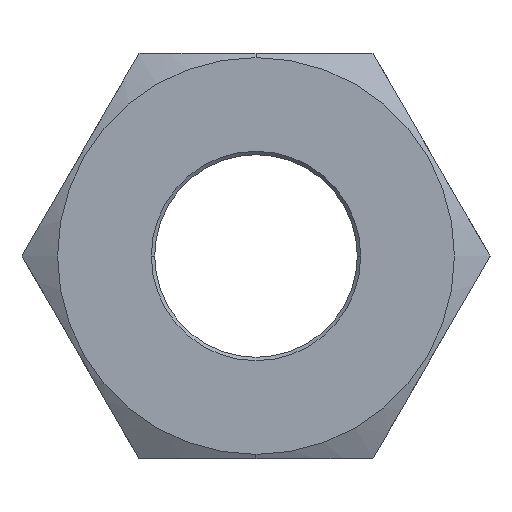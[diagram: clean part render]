
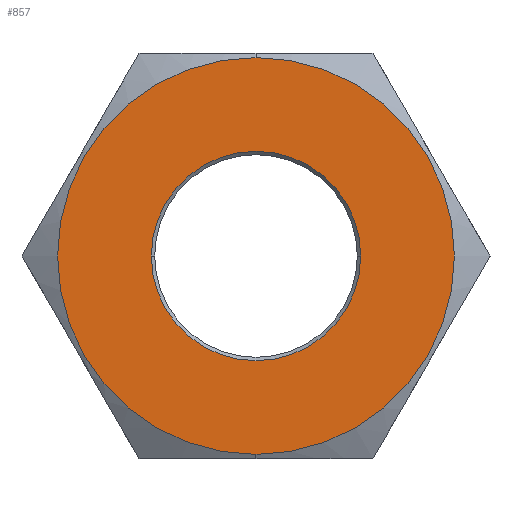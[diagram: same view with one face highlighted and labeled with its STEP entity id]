
A CAD part, left-side view. The second image highlights one B-rep face of the part: STEP entity #857.
In plain terms, the highlighted planar face has unit normal (-1, 0, 0) as drawn and (0, 0, 1) by its records, which use the part's own axes.
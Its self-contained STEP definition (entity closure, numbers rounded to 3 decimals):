
#141=CARTESIAN_POINT('',(11.75,0.0,9.));
#142=VERTEX_POINT('',#141);
#151=CARTESIAN_POINT('',(-11.75,0.,9.0));
#152=VERTEX_POINT('',#151);
#153=CARTESIAN_POINT('',(0.,0.0,9.0));
#154=DIRECTION('',(0.0,0.0,1.0));
#155=DIRECTION('',(1.0,0.0,0.0));
#156=AXIS2_PLACEMENT_3D('',#153,#154,#155);
#157=CIRCLE('',#156,11.75);
#158=EDGE_CURVE('',#152,#142,#157,.T.);
#471=CARTESIAN_POINT('',(0.,6.2,9.));
#472=VERTEX_POINT('',#471);
#480=CARTESIAN_POINT('',(0.,-6.2,9.0));
#481=VERTEX_POINT('',#480);
#488=CARTESIAN_POINT('',(0.,0.,9.0));
#489=DIRECTION('',(0.0,0.0,-1.0));
#490=DIRECTION('',(0.0,1.0,0.0));
#491=AXIS2_PLACEMENT_3D('',#488,#489,#490);
#492=CIRCLE('',#491,6.2);
#493=EDGE_CURVE('',#472,#481,#492,.T.);
#504=CARTESIAN_POINT('',(0.,0.,9.0));
#505=DIRECTION('',(0.0,0.0,-1.0));
#506=DIRECTION('',(0.0,1.0,0.0));
#507=AXIS2_PLACEMENT_3D('',#504,#505,#506);
#508=CIRCLE('',#507,6.2);
#509=EDGE_CURVE('',#481,#472,#508,.T.);
#728=CARTESIAN_POINT('',(0.,0.0,9.0));
#729=DIRECTION('',(0.0,0.0,1.0));
#730=DIRECTION('',(1.0,0.0,0.0));
#731=AXIS2_PLACEMENT_3D('',#728,#729,#730);
#732=CIRCLE('',#731,11.75);
#733=EDGE_CURVE('',#142,#152,#732,.T.);
#844=CARTESIAN_POINT('',(0.,0.,9.0));
#845=DIRECTION('',(0.0,0.0,1.0));
#846=DIRECTION('',(1.0,0.0,0.0));
#847=AXIS2_PLACEMENT_3D('',#844,#845,#846);
#848=PLANE('',#847);
#849=ORIENTED_EDGE('',*,*,#733,.T.);
#850=ORIENTED_EDGE('',*,*,#158,.T.);
#851=EDGE_LOOP('',(#849,#850));
#852=FACE_OUTER_BOUND('',#851,.T.);
#853=ORIENTED_EDGE('',*,*,#493,.T.);
#854=ORIENTED_EDGE('',*,*,#509,.T.);
#855=EDGE_LOOP('',(#853,#854));
#856=FACE_BOUND('',#855,.T.);
#857=ADVANCED_FACE('',(#852,#856),#848,.T.);
